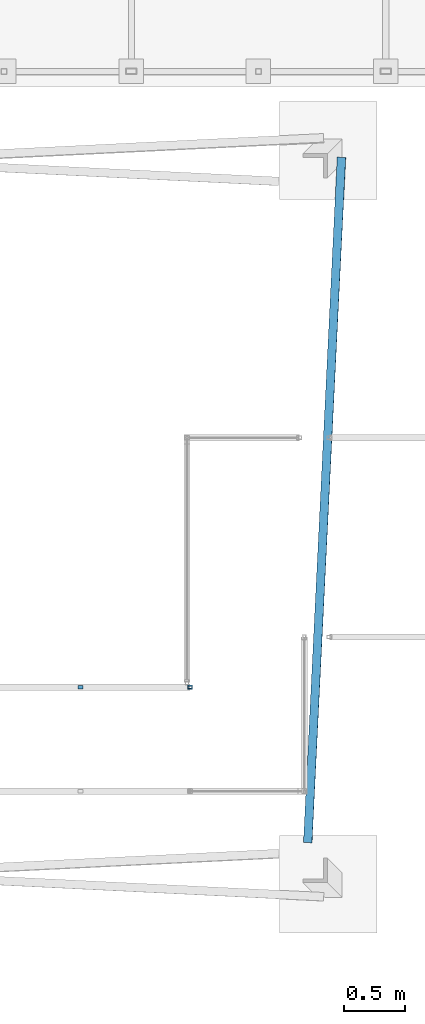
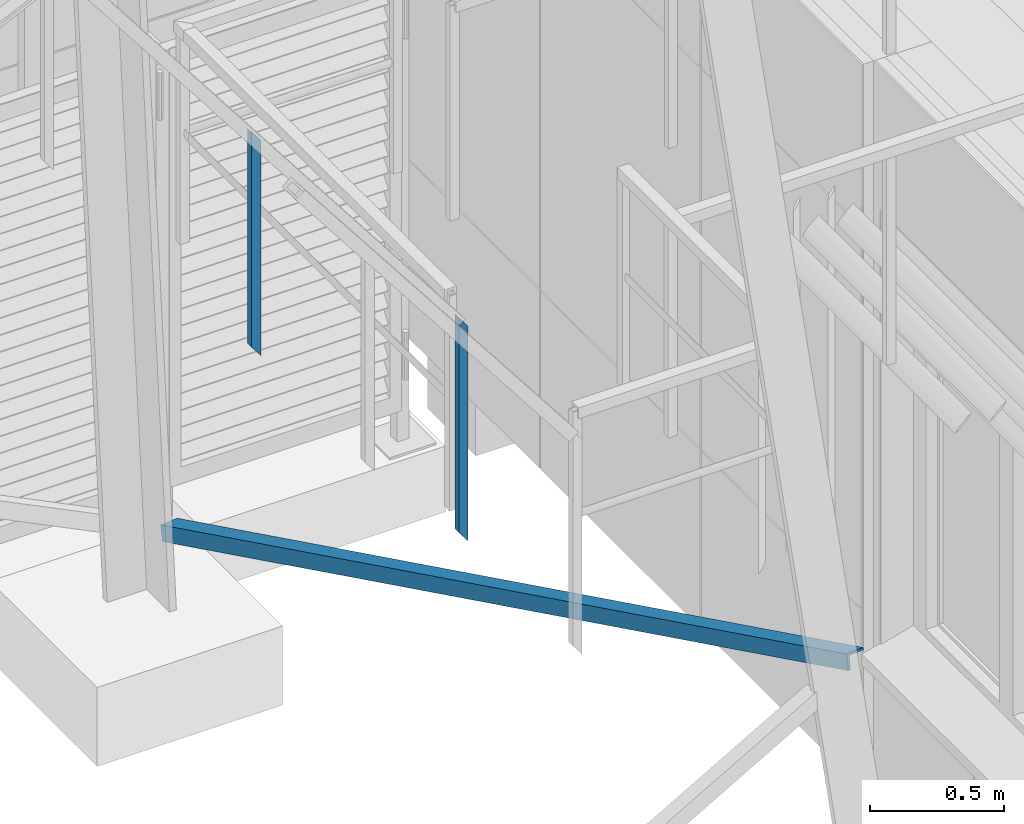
# One storey, part 11 of 418: 2 members, 1 beam, 1 element without a shape of its own.
"""IFC2X3 building model written with IfcOpenShell, lengths in millimetres."""

import ifcopenshell
import ifcopenshell.guid

model = None  # the IFC model being written
_history = None  # IfcOwnerHistory: only IFC2X3 demands one
_inside = {}  # id of a spatial element -> (the spatial element, [elements in it])
_under = {}  # id of a project, library or spatial element -> (it, [spatial elements below it])
_declared = {}  # id of a project -> (the project, [libraries it declares])
_typed = {}  # id of a type object -> (the type object, [elements of that type])
_made_of = {}  # id of a material, layer set ... -> (it, [elements and type objects made of it])


def new_model(schema):
    """Start an empty IFC model of exactly this schema.

    Asked for "IFC4X3", IfcOpenShell would pick the latest addendum, in which some entities
    have other attributes; the version numbers below select the first issue.
    IFC2X3 requires an IfcOwnerHistory on every rooted entity: one is made here for all.
    """
    global model, _history
    if schema == "IFC4X3":
        model = ifcopenshell.file(schema_version=(4, 3, 0, 0))
    else:
        model = ifcopenshell.file(schema=schema)
    _inside.clear()
    _under.clear()
    _declared.clear()
    _typed.clear()
    _made_of.clear()
    _history = None
    if model.schema == "IFC2X3":
        org = make("IfcOrganization", Name="unknown")
        user = make(
            "IfcPersonAndOrganization",
            ThePerson=make("IfcPerson", FamilyName="unknown"),
            TheOrganization=org,
        )
        app = make(
            "IfcApplication",
            ApplicationDeveloper=org,
            Version="unknown",
            ApplicationFullName="unknown",
            ApplicationIdentifier="unknown",
        )
        _history = make(
            "IfcOwnerHistory",
            OwningUser=user,
            OwningApplication=app,
            ChangeAction="ADDED",
            CreationDate=0,
        )
    return model


def make(cls, **values):
    """One entity of the class cls with the attributes given. An attribute that is None is left unset."""
    return model.create_entity(
        cls, **{name: value for name, value in values.items() if value is not None}
    )


def entity(cls, *values):
    """Any entity or typed value of the class cls, its attributes in the order of the schema. None: left unset."""
    e = model.create_entity(cls)
    for i, value in enumerate(values):
        if value is not None:
            e[i] = value
    return e


def rooted(cls, **values):
    """An entity with a GlobalId (a new one), such as an element, a storey or a relation."""
    return make(cls, GlobalId=ifcopenshell.guid.new(), OwnerHistory=_history, **values)


def si_unit(unit_type, name, prefix=None):
    """IfcSIUnit, for example si_unit("LENGTHUNIT", "METRE", prefix="MILLI")."""
    return make("IfcSIUnit", UnitType=unit_type, Prefix=prefix, Name=name)


def converted_unit(unit_type, name, factor, base, dimensions=None, offset=None):
    """IfcConversionBasedUnit, such as the inch: factor (a typed value) times the base unit."""
    return make(
        "IfcConversionBasedUnit"
        if offset is None
        else "IfcConversionBasedUnitWithOffset",
        ConversionOffset=offset,
        Dimensions=None
        if dimensions is None
        else entity("IfcDimensionalExponents", *dimensions),
        UnitType=unit_type,
        Name=name,
        ConversionFactor=make(
            "IfcMeasureWithUnit", ValueComponent=factor, UnitComponent=base
        ),
    )


def derived_unit(unit_type, elements):
    """IfcDerivedUnit: a product of units, each with its exponent."""
    return make(
        "IfcDerivedUnit",
        Elements=[
            make("IfcDerivedUnitElement", Unit=unit, Exponent=power)
            for unit, power in elements
        ],
        UnitType=unit_type,
    )


def money_unit(currency):
    """IfcMonetaryUnit."""
    return make("IfcMonetaryUnit", Currency=currency)


def assignment(units):
    """IfcUnitAssignment: the units of a project."""
    return None if units is None else make("IfcUnitAssignment", Units=units)


def point(xyz):
    """IfcCartesianPoint."""
    return None if xyz is None else make("IfcCartesianPoint", Coordinates=xyz)


def direction(xyz):
    """IfcDirection."""
    return None if xyz is None else make("IfcDirection", DirectionRatios=xyz)


def frame(location, z_axis=None, x_axis=None):
    """IfcAxis2Placement3D, a coordinate frame: its origin and axes. An axis left out is left unset."""
    return make(
        "IfcAxis2Placement3D",
        Location=point(location),
        Axis=direction(z_axis),
        RefDirection=direction(x_axis),
    )


def origin_with_axes():
    """The frame at (0, 0, 0) with the z axis (0, 0, 1) and the x axis (1, 0, 0) written out."""
    return frame((0.0, 0.0, 0.0), z_axis=(0.0, 0.0, 1.0), x_axis=(1.0, 0.0, 0.0))


def place(relative_to, where):
    """IfcLocalPlacement: puts the frame where relative to a parent placement (None: the world)."""
    return make(
        "IfcLocalPlacement", PlacementRelTo=relative_to, RelativePlacement=where
    )


def context(
    kind, dimensions, precision=None, world=None, true_north=None, identifier=None
):
    """IfcGeometricRepresentationContext, for example the 3D "Model" context."""
    return make(
        "IfcGeometricRepresentationContext",
        ContextIdentifier=identifier,
        ContextType=kind,
        CoordinateSpaceDimension=dimensions,
        Precision=precision,
        WorldCoordinateSystem=world,
        TrueNorth=true_north,
    )


def subcontext(parent, identifier, kind, view, scale=None):
    """IfcGeometricRepresentationSubContext, for example "Body" below "Model"."""
    return make(
        "IfcGeometricRepresentationSubContext",
        ContextIdentifier=identifier,
        ContextType=kind,
        ParentContext=parent,
        TargetScale=scale,
        TargetView=view,
    )


def project(units=None, contexts=None):
    """IfcProject with its units and contexts."""
    return rooted(
        "IfcProject",
        Name="project",
        RepresentationContexts=contexts,
        UnitsInContext=assignment(units),
    )


def spatial(cls, under=None, at=None, **own):
    """A site, building, storey or space (cls), placed at a placement, below another one or the project."""
    s = rooted(cls, ObjectPlacement=at, **own)
    if under is not None:
        _under.setdefault(under.id(), (under, []))[1].append(s)
    return s


def polyline(points):
    """IfcPolyline through the points."""
    return make("IfcPolyline", Points=[point(p) for p in points])


def outline(outer, holes=None, kind="AREA"):
    """IfcArbitraryClosedProfileDef: a profile drawn as a closed curve; with holes, ...WithVoids."""
    if holes is None:
        return make("IfcArbitraryClosedProfileDef", ProfileType=kind, OuterCurve=outer)
    return make(
        "IfcArbitraryProfileDefWithVoids",
        ProfileType=kind,
        OuterCurve=outer,
        InnerCurves=holes,
    )


def extrude(swept, where, along, depth):
    """IfcExtrudedAreaSolid: the profile swept, set in the frame where, extruded along a direction by depth."""
    return make(
        "IfcExtrudedAreaSolid",
        SweptArea=swept,
        Position=where,
        ExtrudedDirection=direction(along),
        Depth=depth,
    )


def clip(a, b, op="DIFFERENCE"):
    """IfcBooleanClippingResult: the solid a cut by the half space b."""
    return make(
        "IfcBooleanClippingResult", Operator=op, FirstOperand=a, SecondOperand=b
    )


def halfspace(plane, agree):
    """IfcHalfSpaceSolid: all space on one side of the plane z = 0 of the frame plane."""
    return make(
        "IfcHalfSpaceSolid",
        BaseSurface=make("IfcPlane", Position=plane),
        AgreementFlag=agree,
    )


def faces_of(points, faces, orient=None, outer=None):
    """IfcFace entities. A face is a list of loops; a loop is a list of indices into points, from 0.

    orient and outer hold one flag for each loop. By default every Orientation is true, the
    first loop of a face is its IfcFaceOuterBound and the others are IfcFaceBound.
    """
    made = []
    for i, loops in enumerate(faces):
        bounds = []
        for j, loop in enumerate(loops):
            is_outer = j == 0 if outer is None else outer[i][j]
            bounds.append(
                make(
                    "IfcFaceOuterBound" if is_outer else "IfcFaceBound",
                    Bound=make("IfcPolyLoop", Polygon=[points[k] for k in loop]),
                    Orientation=True if orient is None else orient[i][j],
                )
            )
        made.append(make("IfcFace", Bounds=bounds))
    return made


def faceted_brep(points, faces, orient=None, outer=None, voids=None):
    """IfcFacetedBrep: a solid bounded by flat faces; with voids (closed shells), ...WithVoids."""
    shared = [point(p) for p in points]
    hull = make("IfcClosedShell", CfsFaces=faces_of(shared, faces, orient, outer))
    if voids is None:
        return make("IfcFacetedBrep", Outer=hull)
    return make(
        "IfcFacetedBrepWithVoids",
        Outer=hull,
        Voids=[
            make(cls, CfsFaces=faces_of(shared, fs, o, b)) for cls, fs, o, b in voids
        ],
    )


def shape(context_of_items, identifier, shape_type, items):
    """IfcShapeRepresentation: the items that make up one representation, for example the "Body"."""
    return make(
        "IfcShapeRepresentation",
        ContextOfItems=context_of_items,
        RepresentationIdentifier=identifier,
        RepresentationType=shape_type,
        Items=items,
    )


def source(mapping_origin, context_of_items, identifier, shape_type, items):
    """IfcRepresentationMap: a shape defined once, which mapped items show again and again."""
    return make(
        "IfcRepresentationMap",
        MappingOrigin=mapping_origin,
        MappedRepresentation=shape(context_of_items, identifier, shape_type, items),
    )


def transform(
    local_origin,
    x_axis=None,
    y_axis=None,
    z_axis=None,
    scale=None,
    scale2=None,
    scale3=None,
    uniform=True,
):
    """IfcCartesianTransformationOperator3D, or its non-uniform kind. x_axis, y_axis, z_axis: its Axis1, 2, 3."""
    if uniform:
        return make(
            "IfcCartesianTransformationOperator3D",
            Axis1=direction(x_axis),
            Axis2=direction(y_axis),
            LocalOrigin=point(local_origin),
            Scale=scale,
            Axis3=direction(z_axis),
        )
    return make(
        "IfcCartesianTransformationOperator3DnonUniform",
        Axis1=direction(x_axis),
        Axis2=direction(y_axis),
        LocalOrigin=point(local_origin),
        Scale=scale,
        Axis3=direction(z_axis),
        Scale2=scale2,
        Scale3=scale3,
    )


def mapped(mapping_source, mapping_target):
    """IfcMappedItem: shows the shape of a source again, moved by a transform."""
    return make(
        "IfcMappedItem", MappingSource=mapping_source, MappingTarget=mapping_target
    )


def material(Name=None, Category=None):
    """IfcMaterial."""
    return make("IfcMaterial", Name=Name, Category=Category)


def made_of(thing, what):
    """Note that an element or type object is made of a material, layer set ...; save() writes the relation."""
    if what is not None:
        _made_of.setdefault(what.id(), (what, []))[1].append(thing)
    return thing


def type_object(cls, material=None, **own):
    """A type object (cls), such as IfcWallType, which elements share."""
    return made_of(rooted(cls, **own), material)


def element(
    cls,
    number,
    at=None,
    inside=None,
    cuts=None,
    type_object=None,
    material=None,
    context=None,
    identifier="Body",
    shape_type=None,
    held_by="IfcProductDefinitionShape",
    body=None,
    shapes=None,
    **own,
):
    """One element of the class cls, such as IfcWall. Its Tag is "e" and its number.

    at: its placement. inside: the storey or other place that contains it. cuts: it is an
    opening in that element (IfcRelVoidsElement). A single representation is given by context,
    identifier, shape_type and body (its items); several are given by shapes. held_by: the class
    of the entity that holds the representations. save() writes the other relations.
    """
    e = rooted(cls, Tag="e%d" % number, ObjectPlacement=at, **own)
    if body is not None:
        shapes = [shape(context, identifier, shape_type, body)]
    if shapes is not None:
        e.Representation = make(held_by, Representations=shapes)
    if inside is not None:
        _inside.setdefault(inside.id(), (inside, []))[1].append(e)
    if cuts is not None:
        rooted(
            "IfcRelVoidsElement", RelatingBuildingElement=cuts, RelatedOpeningElement=e
        )
    if type_object is not None:
        _typed.setdefault(type_object.id(), (type_object, []))[1].append(e)
    return made_of(e, material)


def aggregate(whole, parts):
    """IfcRelAggregates: a whole, such as a stair, and the parts it consists of."""
    return rooted("IfcRelAggregates", RelatingObject=whole, RelatedObjects=parts)


def save(model, path):
    """Write the relations noted so far, then the file.

    IfcRelAggregates (storeys below a building ...), IfcRelContainedInSpatialStructure (elements
    in a storey), IfcRelDefinesByType, IfcRelAssociatesMaterial and IfcRelDeclares: one each for
    every whole, place, type object, material and project.
    """
    for whole, parts in _under.values():
        aggregate(whole, parts)
    for where, things in _inside.values():
        rooted(
            "IfcRelContainedInSpatialStructure",
            RelatedElements=things,
            RelatingStructure=where,
        )
    for kind, things in _typed.values():
        rooted("IfcRelDefinesByType", RelatedObjects=things, RelatingType=kind)
    for what, things in _made_of.values():
        rooted("IfcRelAssociatesMaterial", RelatedObjects=things, RelatingMaterial=what)
    for by, libraries in _declared.values():
        rooted("IfcRelDeclares", RelatingContext=by, RelatedDefinitions=libraries)
    model.write(path)


model = new_model("IFC2X3")

# Units and contexts
model_context = context("Model", 3, precision=0.01, world=origin_with_axes(), true_north=direction((0.0, 1.0)))
body_context = subcontext(model_context, "Body", "Model", "MODEL_VIEW")
ifc_project = project(units=[si_unit("LENGTHUNIT", "METRE", prefix="MILLI"), si_unit("AREAUNIT", "SQUARE_METRE"), si_unit("VOLUMEUNIT", "CUBIC_METRE"), converted_unit("PLANEANGLEUNIT", "DEGREE", entity("IfcPlaneAngleMeasure", 0.0174532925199), si_unit("PLANEANGLEUNIT", "RADIAN"), dimensions=[0, 0, 0, 0, 0, 0, 0]), si_unit("SOLIDANGLEUNIT", "STERADIAN"), money_unit("EUR"), converted_unit("TIMEUNIT", "Year", entity("IfcTimeMeasure", 31556926.0), si_unit("TIMEUNIT", "SECOND"), dimensions=[0, 0, 1, 0, 0, 0, 0]), si_unit("MASSUNIT", "GRAM", prefix="KILO"), si_unit("THERMODYNAMICTEMPERATUREUNIT", "DEGREE_CELSIUS"), si_unit("LUMINOUSINTENSITYUNIT", "LUMEN"), si_unit("ENERGYUNIT", "JOULE", prefix="MEGA"), derived_unit("THERMALCONDUCTANCEUNIT", [(si_unit("POWERUNIT", "WATT"), 1), (si_unit("LENGTHUNIT", "METRE"), -1), (si_unit("THERMODYNAMICTEMPERATUREUNIT", "KELVIN"), -1)]), derived_unit("SPECIFICHEATCAPACITYUNIT", [(si_unit("ENERGYUNIT", "JOULE"), 1), (si_unit("MASSUNIT", "GRAM", prefix="KILO"), -1), (si_unit("THERMODYNAMICTEMPERATUREUNIT", "KELVIN"), -1)]), derived_unit("MASSDENSITYUNIT", [(si_unit("MASSUNIT", "GRAM", prefix="KILO"), 1), (si_unit("VOLUMEUNIT", "CUBIC_METRE"), -1)])], contexts=[model_context])

# Site, building, storey
site_placement = place(None, origin_with_axes())
site = spatial("IfcSite", under=ifc_project, at=site_placement, Name="Paldiski mnt 245/1, Tallinn, Harjumaa", CompositionType="COMPLEX")
building_placement = place(site_placement, origin_with_axes())
building = spatial("IfcBuilding", under=site, at=building_placement, Name="RKAS Hoone üldnimetus (kasutust iseloomustav) -> IFC Project Manager -> SOLIBRI", CompositionType="ELEMENT")
storey_placement = place(building_placement, origin_with_axes())
storey = spatial("IfcBuildingStorey", under=building, at=storey_placement, Name="Esimene korrus", CompositionType="ELEMENT", Elevation=0.0)

# Beam
ifc_material_1 = material(Name="SV-03_Plaat - Põrand")
beam_type = type_object("IfcBeamType", Name="TORN_KONST_5 70 x 70", PredefinedType="BEAM")
beam_placement = place(storey_placement, frame((-49958.74935, -2231.74167337, 307.999958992), z_axis=(0.0, 0.0, 1.0), x_axis=(-0.998790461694, 0.049169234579, 0.0)))
element("IfcBeam", 1, at=beam_placement, inside=storey, type_object=beam_type, material=ifc_material_1, Name="TALA", ObjectType="BEAM", context=body_context, shape_type="Clipping", body=[
    clip(clip(extrude(outline(polyline([(0.0, 0.0), (0.0, 70.0), (-70.0, 70.0), (-70.0, 60.0), (-10.0, 60.0), (-10.0, 0.0), (0.0, 0.0)])), frame((0.0, 5654.86408347, 2928.159223), z_axis=(0.0, -0.888010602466, -0.459822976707), x_axis=(0.994521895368, 0.0480645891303, -0.0928223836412)), (0.0, 0.0, 1.0), 6419.27497254), halfspace(frame((0.0, 0.0, 0.0), z_axis=(0.0, 1.0, 0.0), x_axis=(0.0, 0.0, 1.0)), True)), halfspace(frame((0.0, 5609.34393117, 0.0), z_axis=(0.0, -1.0, 0.0), x_axis=(0.0, 0.0, -1.0)), True)),
])

# Railing, members
railing_type = type_object("IfcRailingType", Name="Railing Type", PredefinedType="NOTDEFINED")
railing_placement = place(storey_placement, frame((-51169.8755361, -6565.24631697, 3489.375), z_axis=(0.0, 0.0, 1.0), x_axis=(-0.769638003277, -0.638480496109, 0.0)))
railing = element("IfcRailing", 2, at=railing_placement, inside=storey, type_object=railing_type, Name="PIIRE", PredefinedType="NOTDEFINED")
ifc_material_2 = material(Name="ET-06_Teras - Konstruktsioon")
member_type = type_object("IfcMemberType", Name="IfcMember", PredefinedType="POST")
shared_shape_1 = source(origin_with_axes(), body_context, "Body", "Brep", [
    faceted_brep([(15.0, 20.0, 25.9276818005), (-15.0, 20.0, 25.9276818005), (-15.0, 20.0, 1005.9276818), (15.0, 20.0, 1005.9276818), (15.0, -20.0, -25.9276818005), (-15.0, -20.0, -25.9276818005), (10.0, 15.0, 19.4457613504), (-10.0, 15.0, 19.4457613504), (-10.0, -15.0, -19.4457613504), (10.0, -15.0, -19.4457613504), (-15.0, -20.0, 954.0723182), (15.0, -20.0, 954.0723182), (10.0, 15.0, 999.44576135), (10.0, -15.0, 960.55423865), (-10.0, -15.0, 960.55423865), (-10.0, 15.0, 999.44576135)], [[[0, 1, 2, 3]], [[0, 4, 5, 1], [6, 7, 8, 9]], [[1, 5, 10, 2]], [[3, 2, 10, 11], [12, 13, 14, 15]], [[4, 0, 3, 11]], [[5, 4, 11, 10]], [[7, 6, 12, 15]], [[8, 7, 15, 14]], [[9, 8, 14, 13]], [[6, 9, 13, 12]]]),
])
member_1_placement = place(railing_placement, frame((0.0, 0.0, -100.0), z_axis=(0.0, 0.0, 1.0), x_axis=(-0.769638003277, 0.638480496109, 0.0)))
member_1 = element("IfcMember", 3, at=member_1_placement, type_object=member_type, material=ifc_material_2, Name="PIIRDE POST - 001", ObjectType="POST", context=body_context, shape_type="MappedRepresentation", body=[
    mapped(shared_shape_1, transform((0.0, 0.0, 0.0), x_axis=(0.0, 1.0, 0.0), y_axis=(-1.0, 0.0, 0.0), z_axis=(0.0, 0.0, 1.0))),
])
ifc_material_3 = material(Name="ET-07_Teras - Roostevaba")
shared_shape_2 = source(origin_with_axes(), body_context, "Body", "Brep", [
    faceted_brep([(15.0, 20.0, 25.9276818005), (-15.0, 20.0, 25.9276818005), (-15.0, 20.0, 1005.9276818), (15.0, 20.0, 1005.9276818), (15.0, -20.0, -25.9276818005), (-15.0, -20.0, -25.9276818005), (-15.0, -20.0, 954.0723182), (15.0, -20.0, 954.0723182)], [[[0, 1, 2, 3]], [[0, 4, 5, 1]], [[1, 5, 6, 2]], [[3, 2, 6, 7]], [[4, 0, 3, 7]], [[5, 4, 7, 6]]]),
])
member_2_placement = place(railing_placement, frame((688.001591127, -570.756115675, 1058.87509823), z_axis=(0.0, 0.0, 1.0), x_axis=(-0.769638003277, 0.638480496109, 0.0)))
member_2 = element("IfcMember", 4, at=member_2_placement, type_object=member_type, material=ifc_material_3, Name="Piirde Post - 001", ObjectType="POST", context=body_context, shape_type="MappedRepresentation", body=[
    mapped(shared_shape_2, transform((0.0, 0.0, 0.0), x_axis=(0.0, 1.0, 0.0), y_axis=(-1.0, 0.0, 0.0), z_axis=(0.0, 0.0, 1.0))),
])
aggregate(railing, [member_1, member_2])

save(model, "model.ifc")
